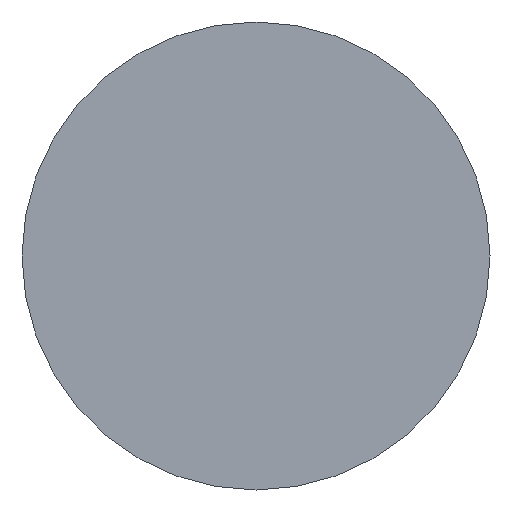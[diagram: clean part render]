
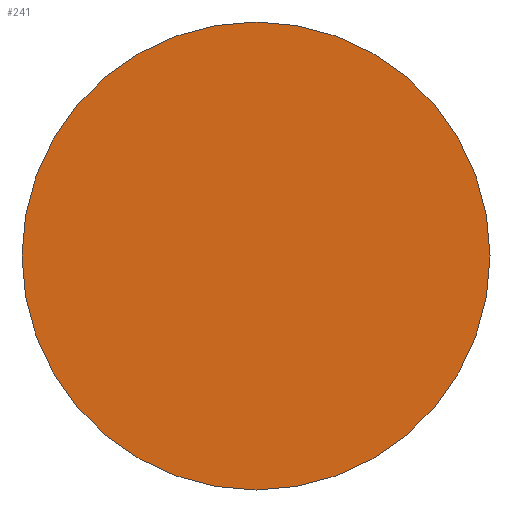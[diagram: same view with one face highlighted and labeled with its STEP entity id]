
A CAD part, left-side view. The second image highlights one B-rep face of the part: STEP entity #241.
In plain terms, the highlighted planar face has unit normal (-1, 0, 0).
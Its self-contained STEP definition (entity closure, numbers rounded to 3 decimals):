
#11 = AXIS2_PLACEMENT_3D ( 'NONE', #265, #264, #142 ) ;
#12 = CARTESIAN_POINT ( 'NONE',  ( 0., 1.5, 0. ) ) ;
#14 = VERTEX_POINT ( 'NONE', #12 ) ;
#28 = AXIS2_PLACEMENT_3D ( 'NONE', #152, #77, #183 ) ;
#38 = EDGE_LOOP ( 'NONE', ( #70, #270 ) ) ;
#41 = DIRECTION ( 'NONE',  ( 0., 1., 0. ) ) ;
#47 = PLANE ( 'NONE',  #11 ) ;
#70 = ORIENTED_EDGE ( 'NONE', *, *, #114, .F. ) ;
#77 = DIRECTION ( 'NONE',  ( 1., 0., 0. ) ) ;
#83 = CIRCLE ( 'NONE', #210, 1.5 ) ;
#87 = FACE_OUTER_BOUND ( 'NONE', #38, .T. ) ;
#98 = VERTEX_POINT ( 'NONE', #133 ) ;
#114 = EDGE_CURVE ( 'NONE', #14, #98, #238, .T. ) ;
#133 = CARTESIAN_POINT ( 'NONE',  ( 0., -1.5, 0. ) ) ;
#137 = DIRECTION ( 'NONE',  ( 1., 0., 0. ) ) ;
#142 = DIRECTION ( 'NONE',  ( 0., -1., 0. ) ) ;
#152 = CARTESIAN_POINT ( 'NONE',  ( 0., 0., 0. ) ) ;
#177 = EDGE_CURVE ( 'NONE', #98, #14, #83, .T. ) ;
#183 = DIRECTION ( 'NONE',  ( 0., 1., 0. ) ) ;
#210 = AXIS2_PLACEMENT_3D ( 'NONE', #259, #137, #41 ) ;
#238 = CIRCLE ( 'NONE', #28, 1.5 ) ;
#241 = ADVANCED_FACE ( 'NONE', ( #87 ), #47, .T. ) ;
#259 = CARTESIAN_POINT ( 'NONE',  ( 0., 0., 0. ) ) ;
#264 = DIRECTION ( 'NONE',  ( -1., 0., 0. ) ) ;
#265 = CARTESIAN_POINT ( 'NONE',  ( 0., 0., 0. ) ) ;
#270 = ORIENTED_EDGE ( 'NONE', *, *, #177, .F. ) ;
